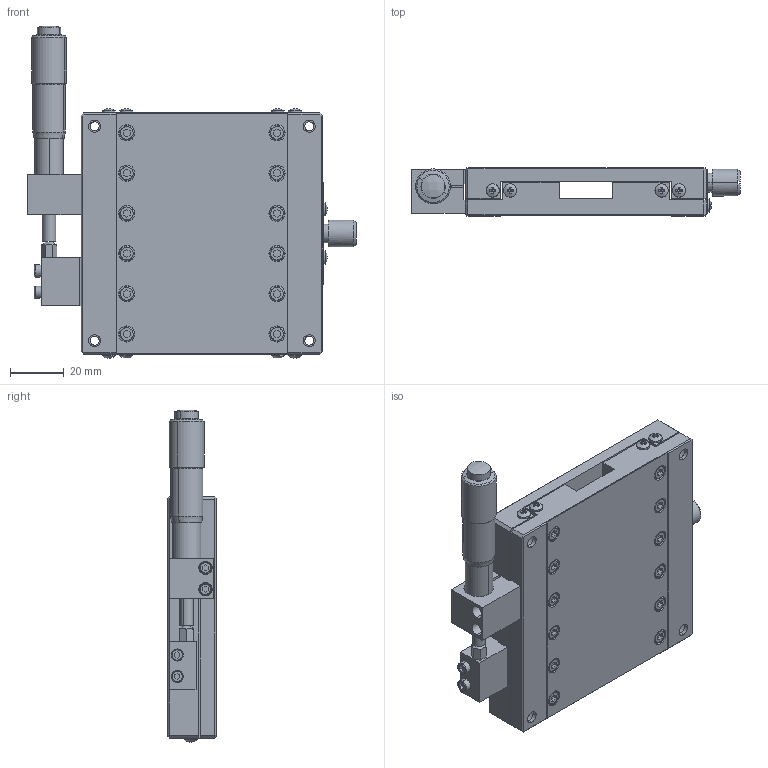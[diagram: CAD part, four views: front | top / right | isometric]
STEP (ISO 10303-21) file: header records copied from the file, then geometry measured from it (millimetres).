
FILE_DESCRIPTION (( 'STEP AP203' ), '1' );
FILE_NAME ('LX90-L.STEP', '2013-12-24T09:35:15', ( 'pengyu' ), ( '' ), 'SwSTEP 2.0', 'SolidWorks 2011', '' );
FILE_SCHEMA (( 'CONFIG_CONTROL_DESIGN' ));
Length unit declared in the file: millimetre
Products named in the file (4): LX90-L; MT25-1-1; L90L-2; L90L-1
Assembly tree (3 placements, depth 2):
  LX90-L
    MT25-1-1
    L90L-2
    L90L-1
Bounding box: 122.6 x 18 x 123.81 mm (x, y, z)
Volume: 138228.8 mm3; surface area: 56639.2 mm2
Topology: 3 solids, 7 shells, 921 faces, 2209 edges, 1397 vertices
Faces by surface type: plane 528, cylinder 222, cone 97, bspline 74
Entity records: 28160 total; most frequent: CARTESIAN_POINT 6550, DIRECTION 4382, ORIENTED_EDGE 4370, EDGE_CURVE 2185, AXIS2_PLACEMENT_3D 1583, VERTEX_POINT 1397, LINE 1216, VECTOR 1216
